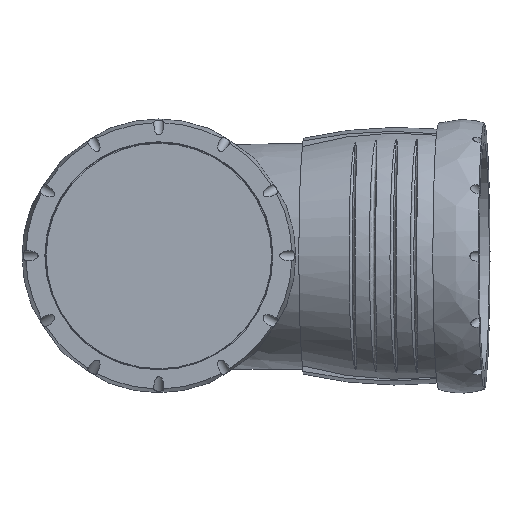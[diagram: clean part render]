
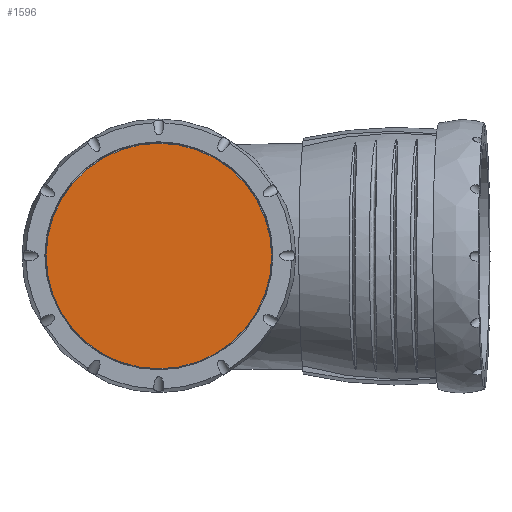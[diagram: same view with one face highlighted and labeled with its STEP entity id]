
A CAD part, top view. The second image highlights one B-rep face of the part: STEP entity #1596.
In plain terms, the highlighted planar face has unit normal (0, 0, 1).
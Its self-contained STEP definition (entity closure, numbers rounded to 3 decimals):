
#217=PLANE('',#1718);
#290=FACE_OUTER_BOUND('',#395,.T.);
#395=EDGE_LOOP('',(#1016));
#531=CIRCLE('',#1716,45.1);
#605=VERTEX_POINT('',#2447);
#776=EDGE_CURVE('',#605,#605,#531,.T.);
#1016=ORIENTED_EDGE('',*,*,#776,.F.);
#1596=ADVANCED_FACE('',(#290),#217,.T.);
#1716=AXIS2_PLACEMENT_3D('',#2448,#1891,#1892);
#1718=AXIS2_PLACEMENT_3D('',#2450,#1895,#1896);
#1891=DIRECTION('center_axis',(0.,0.,
-1.));
#1892=DIRECTION('ref_axis',(-1.,0.,0.));
#1895=DIRECTION('center_axis',(0.,0.,
1.));
#1896=DIRECTION('ref_axis',(-1.,0.,0.));
#2447=CARTESIAN_POINT('',(0.,-45.1,182.));
#2448=CARTESIAN_POINT('Origin',(0.,0.,
182.));
#2450=CARTESIAN_POINT('Origin',(0.,-45.1,182.));
